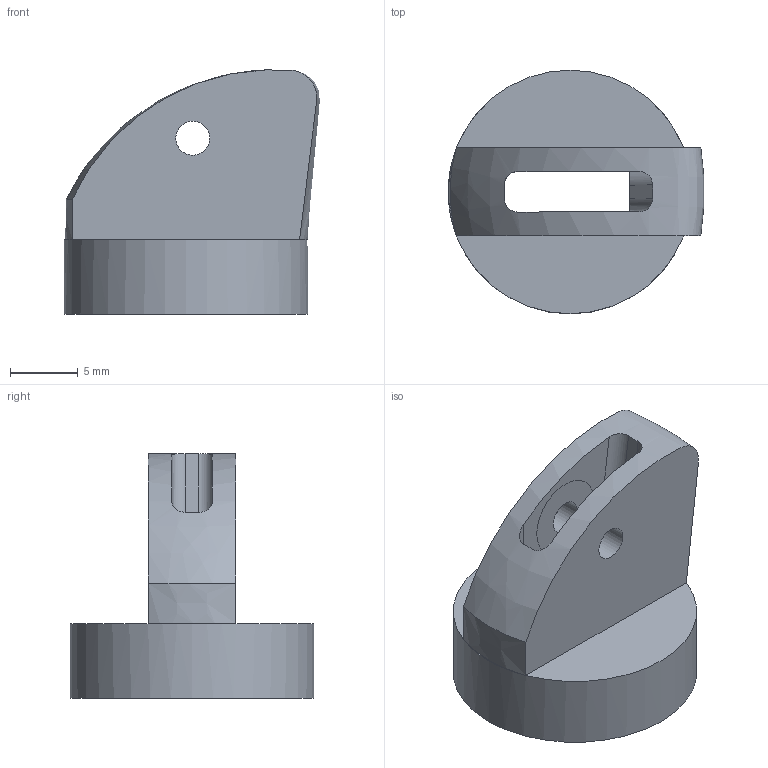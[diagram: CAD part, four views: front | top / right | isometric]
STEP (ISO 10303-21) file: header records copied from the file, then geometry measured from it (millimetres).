
FILE_DESCRIPTION(('HOOPS Exchange Step'),'2;1');
FILE_NAME('/Users/okancifci/Library/Containers/com.shapr3d.shapr/Data/tmp/export/temp_export','2025-02-13T00:30:01-21:00',('okancifci'),('Shapr3D Limited'),'HOOPS Exchange 2024.6','Shapr3D','Authorized');
FILE_SCHEMA( ('AP242_MANAGED_MODEL_BASED_3D_ENGINEERING_MIM_LF {1 0 10303 442 1 1 4 }') );
Length unit declared in the file: millimetre
Products named in the file (2): Thumb5.SLDPRT; root
Assembly tree (1 placements, depth 2):
  root
    Thumb5.SLDPRT
Bounding box: 18.89 x 18 x 18.05 mm (x, y, z)
Volume: 1737.8 mm3; surface area: 1733.6 mm2
Topology: 1 solids, 1 shells, 28 faces, 69 edges, 46 vertices
Faces by surface type: plane 19, cylinder 7, bspline 2
Full cylindrical faces by diameter (mm): 2.5 x2, 18 x1
Entity records: 1217 total; most frequent: CARTESIAN_POINT 490, ORIENTED_EDGE 138, DIRECTION 136, EDGE_CURVE 69, AXIS2_PLACEMENT_3D 50, VERTEX_POINT 46, EDGE_LOOP 37, FACE_BOUND 37
